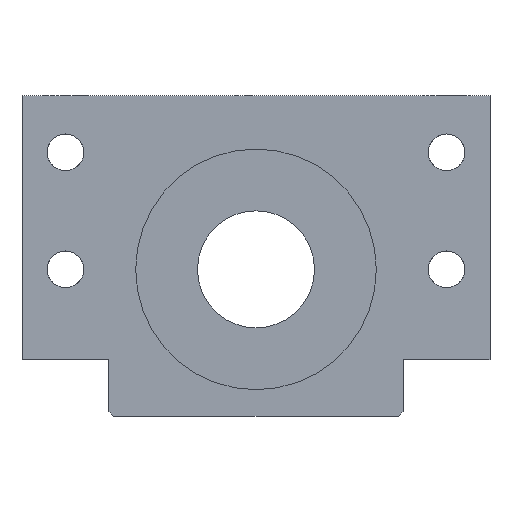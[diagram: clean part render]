
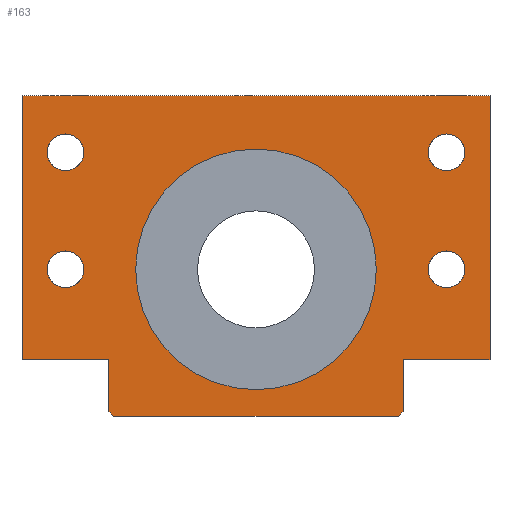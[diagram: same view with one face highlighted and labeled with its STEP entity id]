
A CAD part, left-side view. The second image highlights one B-rep face of the part: STEP entity #163.
In plain terms, the highlighted planar face has unit normal (-1, 0, 0).
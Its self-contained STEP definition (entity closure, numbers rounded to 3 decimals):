
#83=LINE('',#901,#113);
#84=LINE('',#905,#114);
#85=LINE('',#907,#115);
#86=LINE('',#909,#116);
#87=LINE('',#911,#117);
#88=LINE('',#913,#118);
#89=LINE('',#915,#119);
#90=LINE('',#917,#120);
#91=LINE('',#919,#121);
#92=LINE('',#921,#122);
#113=VECTOR('',#686,1.);
#114=VECTOR('',#691,1.);
#115=VECTOR('',#692,1.);
#116=VECTOR('',#693,1.);
#117=VECTOR('',#694,1.);
#118=VECTOR('',#695,1.);
#119=VECTOR('',#696,1.);
#120=VECTOR('',#697,1.);
#121=VECTOR('',#698,1.);
#122=VECTOR('',#699,1.);
#142=PLANE('',#618);
#163=ADVANCED_FACE('',(#243,#244,#245,#246,#247,#248),#142,.T.);
#204=CIRCLE('',#603,5.5);
#205=CIRCLE('',#605,5.5);
#210=CIRCLE('',#615,5.5);
#211=CIRCLE('',#616,5.5);
#212=CIRCLE('',#617,36.);
#243=FACE_BOUND('',#308,.T.);
#244=FACE_BOUND('',#309,.T.);
#245=FACE_BOUND('',#310,.T.);
#246=FACE_BOUND('',#311,.T.);
#247=FACE_BOUND('',#312,.T.);
#248=FACE_BOUND('',#313,.T.);
#308=EDGE_LOOP('',(#383,#384,#385,#386,#387,#388,#389,#390,#391,#392));
#309=EDGE_LOOP('',(#393));
#310=EDGE_LOOP('',(#394));
#311=EDGE_LOOP('',(#395));
#312=EDGE_LOOP('',(#396));
#313=EDGE_LOOP('',(#397));
#383=ORIENTED_EDGE('',*,*,#547,.T.);
#384=ORIENTED_EDGE('',*,*,#548,.T.);
#385=ORIENTED_EDGE('',*,*,#549,.T.);
#386=ORIENTED_EDGE('',*,*,#550,.T.);
#387=ORIENTED_EDGE('',*,*,#551,.T.);
#388=ORIENTED_EDGE('',*,*,#552,.T.);
#389=ORIENTED_EDGE('',*,*,#553,.T.);
#390=ORIENTED_EDGE('',*,*,#554,.T.);
#391=ORIENTED_EDGE('',*,*,#555,.T.);
#392=ORIENTED_EDGE('',*,*,#545,.T.);
#393=ORIENTED_EDGE('',*,*,#556,.F.);
#394=ORIENTED_EDGE('',*,*,#557,.F.);
#395=ORIENTED_EDGE('',*,*,#537,.F.);
#396=ORIENTED_EDGE('',*,*,#538,.F.);
#397=ORIENTED_EDGE('',*,*,#558,.F.);
#487=VERTEX_POINT('',#880);
#488=VERTEX_POINT('',#883);
#493=VERTEX_POINT('',#896);
#495=VERTEX_POINT('',#900);
#497=VERTEX_POINT('',#906);
#498=VERTEX_POINT('',#908);
#499=VERTEX_POINT('',#910);
#500=VERTEX_POINT('',#912);
#501=VERTEX_POINT('',#914);
#502=VERTEX_POINT('',#916);
#503=VERTEX_POINT('',#918);
#504=VERTEX_POINT('',#920);
#505=VERTEX_POINT('',#923);
#506=VERTEX_POINT('',#925);
#507=VERTEX_POINT('',#927);
#537=EDGE_CURVE('GENERATED CIRCLE',#487,#487,#204,.T.);
#538=EDGE_CURVE('GENERATED CIRCLE',#488,#488,#205,.T.);
#545=EDGE_CURVE('LINE',#493,#495,#83,.T.);
#547=EDGE_CURVE('LINE',#495,#497,#84,.T.);
#548=EDGE_CURVE('LINE',#497,#498,#85,.T.);
#549=EDGE_CURVE('LINE',#498,#499,#86,.T.);
#550=EDGE_CURVE('LINE',#499,#500,#87,.T.);
#551=EDGE_CURVE('LINE',#500,#501,#88,.T.);
#552=EDGE_CURVE('LINE',#501,#502,#89,.T.);
#553=EDGE_CURVE('LINE',#502,#503,#90,.T.);
#554=EDGE_CURVE('LINE',#503,#504,#91,.T.);
#555=EDGE_CURVE('LINE',#504,#493,#92,.T.);
#556=EDGE_CURVE('GENERATED CIRCLE',#505,#505,#210,.T.);
#557=EDGE_CURVE('GENERATED CIRCLE',#506,#506,#211,.T.);
#558=EDGE_CURVE('GENERATED CIRCLE',#507,#507,#212,.T.);
#603=AXIS2_PLACEMENT_3D('',#879,#663,#664);
#605=AXIS2_PLACEMENT_3D('',#882,#667,#668);
#615=AXIS2_PLACEMENT_3D('',#922,#700,#701);
#616=AXIS2_PLACEMENT_3D('',#924,#702,#703);
#617=AXIS2_PLACEMENT_3D('',#926,#704,#705);
#618=AXIS2_PLACEMENT_3D('',#928,#706,#707);
#663=DIRECTION('',(-1.,0.,0.));
#664=DIRECTION('',(0.,0.,1.));
#667=DIRECTION('',(-1.,0.,0.));
#668=DIRECTION('',(0.,0.,1.));
#686=DIRECTION('',(0.,1.,0.));
#691=DIRECTION('',(0.,0.,-1.));
#692=DIRECTION('',(0.,-1.,0.));
#693=DIRECTION('',(0.,0.,-1.));
#694=DIRECTION('',(0.,-0.707,-0.707));
#695=DIRECTION('',(0.,-1.,0.));
#696=DIRECTION('',(0.,-0.707,0.707));
#697=DIRECTION('',(0.,0.,1.));
#698=DIRECTION('',(0.,-1.,0.));
#699=DIRECTION('',(0.,0.,1.));
#700=DIRECTION('',(-1.,0.,0.));
#701=DIRECTION('',(0.,0.,1.));
#702=DIRECTION('',(-1.,0.,0.));
#703=DIRECTION('',(0.,0.,1.));
#704=DIRECTION('',(-1.,0.,0.));
#705=DIRECTION('',(0.,0.,1.));
#706=DIRECTION('',(-1.,0.,0.));
#707=DIRECTION('',(0.,-1.,0.));
#879=CARTESIAN_POINT('',(-48.,-57.,-17.));
#880=CARTESIAN_POINT('',(-48.,-57.,-11.5));
#882=CARTESIAN_POINT('',(-48.,-57.,-52.));
#883=CARTESIAN_POINT('',(-48.,-57.,-46.5));
#896=CARTESIAN_POINT('',(-48.,-70.,0.));
#900=CARTESIAN_POINT('',(-48.,70.,0.));
#901=CARTESIAN_POINT('',(-48.,0.,0.));
#905=CARTESIAN_POINT('',(-48.,70.,-39.5));
#906=CARTESIAN_POINT('',(-48.,70.,-79.));
#907=CARTESIAN_POINT('',(-48.,57.,-79.));
#908=CARTESIAN_POINT('',(-48.,44.,-79.));
#909=CARTESIAN_POINT('',(-48.,44.,-86.793));
#910=CARTESIAN_POINT('',(-48.,44.,-94.586));
#911=CARTESIAN_POINT('',(-48.,43.293,-95.293));
#912=CARTESIAN_POINT('',(-48.,42.586,-96.));
#913=CARTESIAN_POINT('',(-48.,0.,-96.));
#914=CARTESIAN_POINT('',(-48.,-42.586,-96.));
#915=CARTESIAN_POINT('',(-48.,-43.293,-95.293));
#916=CARTESIAN_POINT('',(-48.,-44.,-94.586));
#917=CARTESIAN_POINT('',(-48.,-44.,-86.793));
#918=CARTESIAN_POINT('',(-48.,-44.,-79.));
#919=CARTESIAN_POINT('',(-48.,-57.,-79.));
#920=CARTESIAN_POINT('',(-48.,-70.,-79.));
#921=CARTESIAN_POINT('',(-48.,-70.,-39.5));
#922=CARTESIAN_POINT('',(-48.,57.,-17.));
#923=CARTESIAN_POINT('',(-48.,57.,-11.5));
#924=CARTESIAN_POINT('',(-48.,57.,-52.));
#925=CARTESIAN_POINT('',(-48.,57.,-46.5));
#926=CARTESIAN_POINT('',(-48.,0.,-52.));
#927=CARTESIAN_POINT('',(-48.,0.,-16.));
#928=CARTESIAN_POINT('',(-48.,0.,0.));
